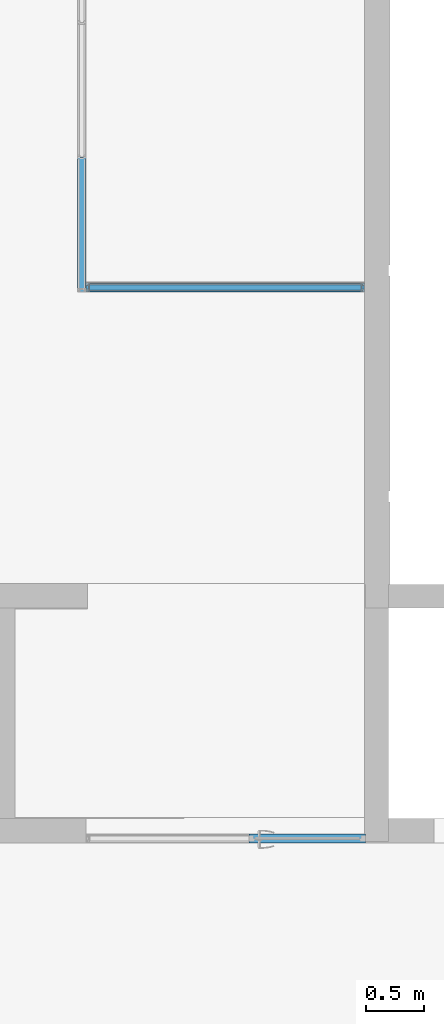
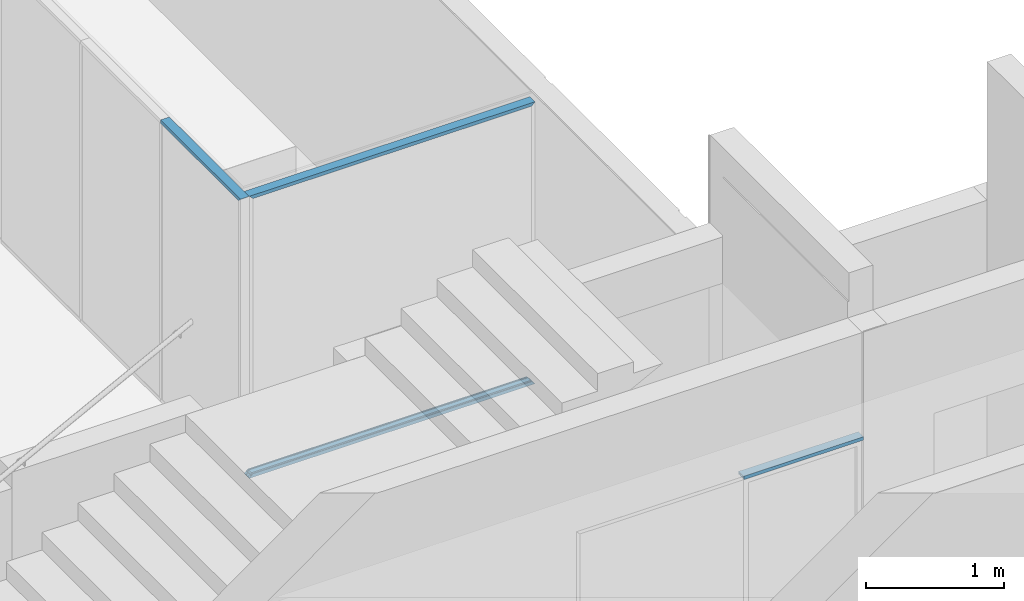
# One storey, part 23 of 79: 4 members, 3 elements without a shape of their own.
"""IFC2X3 building model written with IfcOpenShell, lengths in millimetres."""

from ifc_helpers import new_model, entity, si_unit, converted_unit, derived_unit, money_unit, direction, frame, origin_with_axes, place, context, subcontext, project, spatial, faceted_brep, material, material_list, type_object, element, aggregate, save


model = new_model("IFC2X3")

# Units and contexts
model_context = context("Model", 3, precision=0.01, world=origin_with_axes(), true_north=direction((0.0, 1.0)))
body_context = subcontext(model_context, "Body", "Model", "MODEL_VIEW")
ifc_project = project(units=[si_unit("LENGTHUNIT", "METRE", prefix="MILLI"), si_unit("AREAUNIT", "SQUARE_METRE"), si_unit("VOLUMEUNIT", "CUBIC_METRE"), converted_unit("PLANEANGLEUNIT", "DEGREE", entity("IfcPlaneAngleMeasure", 0.0174532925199), si_unit("PLANEANGLEUNIT", "RADIAN"), dimensions=[0, 0, 0, 0, 0, 0, 0]), si_unit("SOLIDANGLEUNIT", "STERADIAN"), money_unit("EUR"), converted_unit("TIMEUNIT", "Year", entity("IfcTimeMeasure", 31556926.0), si_unit("TIMEUNIT", "SECOND"), dimensions=[0, 0, 1, 0, 0, 0, 0]), si_unit("MASSUNIT", "GRAM", prefix="KILO"), si_unit("THERMODYNAMICTEMPERATUREUNIT", "DEGREE_CELSIUS"), si_unit("LUMINOUSINTENSITYUNIT", "LUMEN"), si_unit("ENERGYUNIT", "JOULE", prefix="MEGA"), derived_unit("THERMALCONDUCTANCEUNIT", [(si_unit("POWERUNIT", "WATT"), 1), (si_unit("LENGTHUNIT", "METRE"), -1), (si_unit("THERMODYNAMICTEMPERATUREUNIT", "KELVIN"), -1)]), derived_unit("SPECIFICHEATCAPACITYUNIT", [(si_unit("ENERGYUNIT", "JOULE"), 1), (si_unit("MASSUNIT", "GRAM", prefix="KILO"), -1), (si_unit("THERMODYNAMICTEMPERATUREUNIT", "KELVIN"), -1)]), derived_unit("MASSDENSITYUNIT", [(si_unit("MASSUNIT", "GRAM", prefix="KILO"), 1), (si_unit("VOLUMEUNIT", "CUBIC_METRE"), -1)])], contexts=[model_context])

# Site, building, storey
site_placement = place(None, origin_with_axes())
site = spatial("IfcSite", under=ifc_project, at=site_placement, Name="L.Koidula tn 11b", CompositionType="ELEMENT")
building_placement = place(site_placement, origin_with_axes())
building = spatial("IfcBuilding", under=site, at=building_placement, Name="Rakvere Riigigümnaasium", CompositionType="ELEMENT")
storey_placement = place(building_placement, frame((0.0, 0.0, 3720.0), z_axis=(0.0, 0.0, 1.0), x_axis=(1.0, 0.0, 0.0)))
storey = spatial("IfcBuildingStorey", under=building, at=storey_placement, Name="2.korrus +3,72", CompositionType="ELEMENT", Elevation=3720.0)

# Curtain wall, members
curtain_wall_type = type_object("IfcCurtainWallType", Name="Curtain Wall Type", PredefinedType="NOTDEFINED")
curtain_wall_1_placement = place(storey_placement, frame((45794.9999935, 19868.2190306, 0.0), z_axis=(0.0, 0.0, 1.0), x_axis=(1.0, 0.0, 0.0)))
curtain_wall_1 = element("IfcCurtainWall", 1, at=curtain_wall_1_placement, inside=storey, type_object=curtain_wall_type, Name="SKLF-18")
ifc_material_1 = material(Name="Klaasvill")
ifc_material_2 = material(Name="Teras RAL7012")
ifc_material_list = material_list([ifc_material_1, ifc_material_2])
member_type = type_object("IfcMemberType", Name="Boundary Frame 30 x 42", PredefinedType="MULLION")
member_1_placement = place(curtain_wall_1_placement, frame((1195.0, 0.0, 0.0), z_axis=(-1.0, 0.0, 0.0), x_axis=(0.0, 0.0, 1.0)))
member_1 = element("IfcMember", 2, at=member_1_placement, type_object=member_type, material=ifc_material_list, Name="SKLF-18-raam", ObjectType="MULLION", context=body_context, shape_type="Brep", body=[
    faceted_brep([(13.8499999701, 15.000000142, 13.8499999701), (13.8499999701, 15.000000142, 2376.15000003), (7.49999990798, 15.000000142, 2382.50000009), (7.49999990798, 15.000000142, 7.49999990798), (13.8499999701, 29.0161444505, 13.8499999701), (13.8499999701, 29.0161444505, 2376.15000003), (7.49999990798, 29.0161444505, 2382.50000009), (7.49999990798, 29.0161444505, 7.49999990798)], [[[0, 1, 2, 3]], [[4, 5, 1, 0]], [[2, 1, 5, 6]], [[3, 2, 6, 7]], [[3, 7, 4, 0]], [[7, 6, 5, 4]]]),
    faceted_brep([(25.004489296, 27.0307503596, 25.004489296), (25.004489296, 27.0307503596, 2364.9955107), (24.987414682, 29.0161444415, 2365.01258532), (24.987414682, 29.0161444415, 24.987414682), (25.742237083, 26.2930025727, 25.742237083), (25.742237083, 26.2930025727, 2364.25776292), (26.7500193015, 26.0229681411, 2363.2499807), (27.75780152, 26.2930025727, 2362.24219848), (28.4955493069, 27.0307503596, 2361.50445069), (28.7655837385, 28.0385325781, 2361.23441626), (28.5126239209, 29.0161444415, 2361.48737608), (28.5126239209, 29.0161444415, 28.5126239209), (28.7655837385, 28.0385325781, 28.7655837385), (28.4955493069, 27.0307503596, 28.4955493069), (27.75780152, 26.2930025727, 27.75780152), (26.7500193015, 26.0229681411, 26.7500193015)], [[[0, 1, 2, 3]], [[4, 5, 1, 0]], [[2, 1, 5, 6, 7, 8, 9, 10]], [[3, 2, 10, 11]], [[3, 11, 12, 13, 14, 15, 4, 0]], [[15, 6, 5, 4]], [[14, 7, 6, 15]], [[13, 8, 7, 14]], [[12, 9, 8, 13]], [[11, 10, 9, 12]]]),
    faceted_brep([(7.49999990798, -39.0161445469, 7.49999990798), (7.49999990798, -39.0161445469, 2382.50000009), (7.49999990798, -24.9999997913, 2382.50000009), (7.49999990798, -24.9999997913, 7.49999990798), (13.8499999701, -39.0161445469, 13.8499999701), (13.8499999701, -39.0161445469, 2376.15000003), (13.8499999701, -24.9999997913, 2376.15000003), (13.8499999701, -24.9999997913, 13.8499999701)], [[[0, 1, 2, 3]], [[4, 5, 1, 0]], [[2, 1, 5, 6]], [[3, 2, 6, 7]], [[3, 7, 4, 0]], [[7, 6, 5, 4]]]),
    faceted_brep([(24.987414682, -39.0161444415, 24.987414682), (24.987414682, -39.0161444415, 2365.01258532), (25.004489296, -37.0307503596, 2364.9955107), (25.004489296, -37.0307503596, 25.004489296), (28.5126239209, -39.0161444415, 28.5126239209), (28.5126239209, -39.0161444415, 2361.48737608), (28.7655837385, -38.0385325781, 2361.23441626), (28.4955493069, -37.0307503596, 2361.50445069), (27.75780152, -36.2930025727, 2362.24219848), (26.7500193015, -36.0229681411, 2363.2499807), (25.742237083, -36.2930025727, 2364.25776292), (25.742237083, -36.2930025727, 25.742237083), (26.7500193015, -36.0229681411, 26.7500193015), (27.75780152, -36.2930025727, 27.75780152), (28.4955493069, -37.0307503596, 28.4955493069), (28.7655837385, -38.0385325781, 28.7655837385)], [[[0, 1, 2, 3]], [[4, 5, 1, 0]], [[2, 1, 5, 6, 7, 8, 9, 10]], [[3, 2, 10, 11]], [[3, 11, 12, 13, 14, 15, 4, 0]], [[15, 6, 5, 4]], [[14, 7, 6, 15]], [[13, 8, 7, 14]], [[12, 9, 8, 13]], [[11, 10, 9, 12]]]),
    faceted_brep([(29.5999996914, -22.0000000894, 29.5999996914), (29.5999996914, -22.0000000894, 2360.40000031), (0.0, -22.0000000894, 2390.0), (0.0, -22.0000000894, 0.0), (29.5999996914, 12.0000000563, 29.5999996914), (29.5999996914, 12.0000000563, 2360.40000031), (0.0, 12.0000000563, 2390.0), (1.9999999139, 10.0000001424, 2388.00000009), (18.7999996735, 10.0000001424, 2371.20000033), (18.7999996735, -20.0000001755, 2371.20000033), (1.9999999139, -20.0000001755, 2388.00000009), (0.0, 12.0000000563, 0.0), (1.9999999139, 10.0000001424, 1.9999999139), (1.9999999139, -20.0000001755, 1.9999999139), (18.7999996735, -20.0000001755, 18.7999996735), (18.7999996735, 10.0000001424, 18.7999996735)], [[[0, 1, 2, 3]], [[4, 5, 1, 0]], [[2, 1, 5, 6], [7, 8, 9, 10]], [[3, 2, 6, 11]], [[3, 11, 4, 0], [12, 13, 14, 15]], [[11, 6, 5, 4]], [[15, 8, 7, 12]], [[14, 9, 8, 15]], [[13, 10, 9, 14]], [[12, 7, 10, 13]]]),
    faceted_brep([(29.5999996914, 12.0000000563, 29.5999996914), (29.5999996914, 12.0000000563, 2360.40000031), (0.0, 12.0, 2390.0), (0.0, 12.0, 0.0), (30.0000193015, 12.0, 30.0000193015), (30.0000193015, 12.0, 2359.9999807), (30.0000193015, 15.0, 2359.9999807), (13.8499999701, 15.000000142, 2376.15000003), (7.49999999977, 15.0, 2382.5), (7.49999999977, 29.0161444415, 2382.5), (13.8499999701, 29.0161444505, 2376.15000003), (24.987414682, 29.0161444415, 2365.01258532), (28.5126239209, 29.0161444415, 2361.48737608), (30.0000193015, 29.0161444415, 2359.9999807), (30.0000193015, 32.0, 2359.9999807), (0.0, 32.0, 2390.0), (0.0, 32.0, 0.0), (30.0000193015, 32.0, 30.0000193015), (30.0000193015, 29.0161444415, 30.0000193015), (28.5126239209, 29.0161444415, 28.5126239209), (24.987414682, 29.0161444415, 24.987414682), (13.8499999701, 29.0161444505, 13.8499999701), (7.49999999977, 29.0161444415, 7.49999999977), (7.49999999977, 15.0, 7.49999999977), (13.8499999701, 15.000000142, 13.8499999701), (30.0000193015, 15.0, 30.0000193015)], [[[0, 1, 2, 3]], [[4, 5, 1, 0]], [[2, 1, 5, 6, 7, 8, 9, 10, 11, 12, 13, 14, 15]], [[3, 2, 15, 16]], [[3, 16, 17, 18, 19, 20, 21, 22, 23, 24, 25, 4, 0]], [[25, 6, 5, 4]], [[24, 7, 6, 25]], [[23, 8, 7, 24]], [[22, 9, 8, 23]], [[21, 10, 9, 22]], [[20, 11, 10, 21]], [[19, 12, 11, 20]], [[18, 13, 12, 19]], [[17, 14, 13, 18]], [[16, 15, 14, 17]]]),
    faceted_brep([(0.0, -42.0, 0.0), (0.0, -42.0, 2390.0), (0.0, -22.0, 2390.0), (0.0, -22.0, 0.0), (30.0000193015, -42.0, 30.0000193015), (30.0000193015, -42.0, 2359.9999807), (30.0000193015, -39.0161444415, 2359.9999807), (28.5126239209, -39.0161444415, 2361.48737608), (24.987414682, -39.0161444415, 2365.01258532), (13.8499999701, -39.0161445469, 2376.15000003), (7.49999999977, -39.0161444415, 2382.5), (7.49999999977, -25.0, 2382.5), (13.8499999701, -24.9999997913, 2376.15000003), (30.0000193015, -25.0, 2359.9999807), (30.0000193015, -22.0, 2359.9999807), (29.5999996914, -22.0000000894, 2360.40000031), (29.5999996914, -22.0000000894, 29.5999996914), (30.0000193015, -22.0, 30.0000193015), (30.0000193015, -25.0, 30.0000193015), (13.8499999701, -24.9999997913, 13.8499999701), (7.49999999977, -25.0, 7.49999999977), (7.49999999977, -39.0161444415, 7.49999999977), (13.8499999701, -39.0161445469, 13.8499999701), (24.987414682, -39.0161444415, 24.987414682), (28.5126239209, -39.0161444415, 28.5126239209), (30.0000193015, -39.0161444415, 30.0000193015)], [[[0, 1, 2, 3]], [[4, 5, 1, 0]], [[2, 1, 5, 6, 7, 8, 9, 10, 11, 12, 13, 14, 15]], [[3, 2, 15, 16]], [[3, 16, 17, 18, 19, 20, 21, 22, 23, 24, 25, 4, 0]], [[25, 6, 5, 4]], [[24, 7, 6, 25]], [[23, 8, 7, 24]], [[22, 9, 8, 23]], [[21, 10, 9, 22]], [[20, 11, 10, 21]], [[19, 12, 11, 20]], [[18, 13, 12, 19]], [[17, 14, 13, 18]], [[16, 15, 14, 17]]]),
])
member_2_placement = place(curtain_wall_1_placement, frame((1195.0, 0.0, 2493.00002265), z_axis=(-1.0, 0.0, 0.0), x_axis=(0.0, 0.0, 1.0)))
member_2 = element("IfcMember", 3, at=member_2_placement, type_object=member_type, material=ifc_material_list, Name="SKLF-18-raam", ObjectType="MULLION", context=body_context, shape_type="Brep", body=[
    faceted_brep([(-13.8499999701, 15.000000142, 13.8499999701), (-7.49999990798, 15.000000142, 7.49999990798), (-7.49999990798, 15.000000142, 2382.50000009), (-13.8499999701, 15.000000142, 2376.15000003), (-13.8499999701, 29.0161444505, 13.8499999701), (-7.49999990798, 29.0161444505, 7.49999990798), (-7.49999990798, 29.0161444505, 2382.50000009), (-13.8499999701, 29.0161444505, 2376.15000003)], [[[0, 1, 2, 3]], [[1, 0, 4, 5]], [[1, 5, 6, 2]], [[2, 6, 7, 3]], [[4, 0, 3, 7]], [[5, 4, 7, 6]]]),
    faceted_brep([(-25.004489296, 27.0307503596, 25.004489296), (-24.987414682, 29.0161444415, 24.987414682), (-24.987414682, 29.0161444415, 2365.01258532), (-25.004489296, 27.0307503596, 2364.9955107), (-25.742237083, 26.2930025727, 25.742237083), (-26.7500193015, 26.0229681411, 26.7500193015), (-27.75780152, 26.2930025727, 27.75780152), (-28.4955493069, 27.0307503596, 28.4955493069), (-28.7655837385, 28.0385325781, 28.7655837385), (-28.5126239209, 29.0161444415, 28.5126239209), (-28.5126239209, 29.0161444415, 2361.48737608), (-28.7655837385, 28.0385325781, 2361.23441626), (-28.4955493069, 27.0307503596, 2361.50445069), (-27.75780152, 26.2930025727, 2362.24219848), (-26.7500193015, 26.0229681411, 2363.2499807), (-25.742237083, 26.2930025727, 2364.25776292)], [[[0, 1, 2, 3]], [[1, 0, 4, 5, 6, 7, 8, 9]], [[1, 9, 10, 2]], [[2, 10, 11, 12, 13, 14, 15, 3]], [[4, 0, 3, 15]], [[5, 4, 15, 14]], [[6, 5, 14, 13]], [[7, 6, 13, 12]], [[8, 7, 12, 11]], [[9, 8, 11, 10]]]),
    faceted_brep([(-7.49999990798, -39.0161445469, 7.49999990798), (-7.49999990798, -24.9999997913, 7.49999990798), (-7.49999990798, -24.9999997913, 2382.50000009), (-7.49999990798, -39.0161445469, 2382.50000009), (-13.8499999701, -39.0161445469, 13.8499999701), (-13.8499999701, -24.9999997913, 13.8499999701), (-13.8499999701, -24.9999997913, 2376.15000003), (-13.8499999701, -39.0161445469, 2376.15000003)], [[[0, 1, 2, 3]], [[1, 0, 4, 5]], [[1, 5, 6, 2]], [[2, 6, 7, 3]], [[4, 0, 3, 7]], [[5, 4, 7, 6]]]),
    faceted_brep([(-24.987414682, -39.0161444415, 24.987414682), (-25.004489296, -37.0307503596, 25.004489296), (-25.004489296, -37.0307503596, 2364.9955107), (-24.987414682, -39.0161444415, 2365.01258532), (-28.5126239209, -39.0161444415, 28.5126239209), (-28.7655837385, -38.0385325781, 28.7655837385), (-28.4955493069, -37.0307503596, 28.4955493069), (-27.75780152, -36.2930025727, 27.75780152), (-26.7500193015, -36.0229681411, 26.7500193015), (-25.742237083, -36.2930025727, 25.742237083), (-25.742237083, -36.2930025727, 2364.25776292), (-26.7500193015, -36.0229681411, 2363.2499807), (-27.75780152, -36.2930025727, 2362.24219848), (-28.4955493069, -37.0307503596, 2361.50445069), (-28.7655837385, -38.0385325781, 2361.23441626), (-28.5126239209, -39.0161444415, 2361.48737608)], [[[0, 1, 2, 3]], [[1, 0, 4, 5, 6, 7, 8, 9]], [[1, 9, 10, 2]], [[2, 10, 11, 12, 13, 14, 15, 3]], [[4, 0, 3, 15]], [[5, 4, 15, 14]], [[6, 5, 14, 13]], [[7, 6, 13, 12]], [[8, 7, 12, 11]], [[9, 8, 11, 10]]]),
    faceted_brep([(-29.5999996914, -22.0000000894, 29.5999996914), (0.0, -22.0000000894, 0.0), (0.0, -22.0000000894, 2390.0), (-29.5999996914, -22.0000000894, 2360.40000031), (-29.5999996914, 12.0000000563, 29.5999996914), (0.0, 12.0000000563, 0.0), (-1.9999999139, 10.0000001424, 1.9999999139), (-18.7999996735, 10.0000001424, 18.7999996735), (-18.7999996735, -20.0000001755, 18.7999996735), (-1.9999999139, -20.0000001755, 1.9999999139), (0.0, 12.0000000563, 2390.0), (-29.5999996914, 12.0000000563, 2360.40000031), (-1.9999999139, 10.0000001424, 2388.00000009), (-1.9999999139, -20.0000001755, 2388.00000009), (-18.7999996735, -20.0000001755, 2371.20000033), (-18.7999996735, 10.0000001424, 2371.20000033)], [[[0, 1, 2, 3]], [[1, 0, 4, 5], [6, 7, 8, 9]], [[1, 5, 10, 2]], [[2, 10, 11, 3], [12, 13, 14, 15]], [[4, 0, 3, 11]], [[5, 4, 11, 10]], [[7, 6, 12, 15]], [[8, 7, 15, 14]], [[9, 8, 14, 13]], [[6, 9, 13, 12]]]),
    faceted_brep([(-29.5999996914, 12.0000000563, 29.5999996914), (0.0, 12.0, 0.0), (0.0, 12.0, 2390.0), (-29.5999996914, 12.0000000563, 2360.40000031), (-30.0000193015, 12.0, 30.0000193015), (-30.0000193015, 15.0, 30.0000193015), (-13.8499999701, 15.000000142, 13.8499999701), (-7.49999999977, 15.0, 7.49999999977), (-7.49999999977, 29.0161444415, 7.49999999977), (-13.8499999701, 29.0161444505, 13.8499999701), (-24.987414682, 29.0161444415, 24.987414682), (-28.5126239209, 29.0161444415, 28.5126239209), (-30.0000193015, 29.0161444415, 30.0000193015), (-30.0000193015, 32.0, 30.0000193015), (0.0, 32.0, 0.0), (0.0, 32.0, 2390.0), (-30.0000193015, 32.0, 2359.9999807), (-30.0000193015, 29.0161444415, 2359.9999807), (-28.5126239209, 29.0161444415, 2361.48737608), (-24.987414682, 29.0161444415, 2365.01258532), (-13.8499999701, 29.0161444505, 2376.15000003), (-7.49999999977, 29.0161444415, 2382.5), (-7.49999999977, 15.0, 2382.5), (-13.8499999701, 15.000000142, 2376.15000003), (-30.0000193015, 15.0, 2359.9999807), (-30.0000193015, 12.0, 2359.9999807)], [[[0, 1, 2, 3]], [[1, 0, 4, 5, 6, 7, 8, 9, 10, 11, 12, 13, 14]], [[1, 14, 15, 2]], [[2, 15, 16, 17, 18, 19, 20, 21, 22, 23, 24, 25, 3]], [[4, 0, 3, 25]], [[5, 4, 25, 24]], [[6, 5, 24, 23]], [[7, 6, 23, 22]], [[8, 7, 22, 21]], [[9, 8, 21, 20]], [[10, 9, 20, 19]], [[11, 10, 19, 18]], [[12, 11, 18, 17]], [[13, 12, 17, 16]], [[14, 13, 16, 15]]]),
    faceted_brep([(0.0, -42.0, 0.0), (0.0, -22.0, 0.0), (0.0, -22.0, 2390.0), (0.0, -42.0, 2390.0), (-30.0000193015, -42.0, 30.0000193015), (-30.0000193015, -39.0161444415, 30.0000193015), (-28.5126239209, -39.0161444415, 28.5126239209), (-24.987414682, -39.0161444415, 24.987414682), (-13.8499999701, -39.0161445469, 13.8499999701), (-7.49999999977, -39.0161444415, 7.49999999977), (-7.49999999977, -25.0, 7.49999999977), (-13.8499999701, -24.9999997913, 13.8499999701), (-30.0000193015, -25.0, 30.0000193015), (-30.0000193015, -22.0, 30.0000193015), (-29.5999996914, -22.0000000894, 29.5999996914), (-29.5999996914, -22.0000000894, 2360.40000031), (-30.0000193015, -22.0, 2359.9999807), (-30.0000193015, -25.0, 2359.9999807), (-13.8499999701, -24.9999997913, 2376.15000003), (-7.49999999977, -25.0, 2382.5), (-7.49999999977, -39.0161444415, 2382.5), (-13.8499999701, -39.0161445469, 2376.15000003), (-24.987414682, -39.0161444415, 2365.01258532), (-28.5126239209, -39.0161444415, 2361.48737608), (-30.0000193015, -39.0161444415, 2359.9999807), (-30.0000193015, -42.0, 2359.9999807)], [[[0, 1, 2, 3]], [[1, 0, 4, 5, 6, 7, 8, 9, 10, 11, 12, 13, 14]], [[1, 14, 15, 2]], [[2, 15, 16, 17, 18, 19, 20, 21, 22, 23, 24, 25, 3]], [[4, 0, 3, 25]], [[5, 4, 25, 24]], [[6, 5, 24, 23]], [[7, 6, 23, 22]], [[8, 7, 22, 21]], [[9, 8, 21, 20]], [[10, 9, 20, 19]], [[11, 10, 19, 18]], [[12, 11, 18, 17]], [[13, 12, 17, 16]], [[14, 13, 16, 15]]]),
])
aggregate(curtain_wall_1, [member_1, member_2])

# Curtain wall, member
curtain_wall_2_placement = place(storey_placement, frame((44568.0000786, 20404.7190306, -3.55964617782e-05), z_axis=(0.0, 0.0, 1.0), x_axis=(1.0, 0.0, 0.0)))
curtain_wall_2 = element("IfcCurtainWall", 4, at=curtain_wall_2_placement, inside=storey, type_object=curtain_wall_type, Name="SKLF-17")
member_3_placement = place(curtain_wall_2_placement, frame((0.0, -578.5, 2493.0000356), z_axis=(0.0, 1.0, 0.0), x_axis=(0.0, 0.0, 1.0)))
member_3 = element("IfcMember", 5, at=member_3_placement, type_object=member_type, material=ifc_material_list, Name="SKLF-81-raam", ObjectType="MULLION", context=body_context, shape_type="Brep", body=[
    faceted_brep([(-13.8499999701, 15.000000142, 13.8499999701), (-7.49999990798, 15.000000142, 7.49999990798), (-7.49999990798, 15.000000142, 1157.0), (-13.8499999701, 15.000000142, 1157.0), (-13.8499999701, 29.0161444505, 13.8499999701), (-7.49999990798, 29.0161444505, 7.49999990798), (-7.49999990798, 29.0161444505, 1157.0), (-13.8499999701, 29.0161444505, 1157.0)], [[[0, 1, 2, 3]], [[1, 0, 4, 5]], [[1, 5, 6, 2]], [[2, 6, 7, 3]], [[4, 0, 3, 7]], [[5, 4, 7, 6]]]),
    faceted_brep([(-25.004489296, 27.0307503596, 25.004489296), (-24.987414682, 29.0161444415, 24.987414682), (-24.987414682, 29.0161444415, 1157.0), (-25.004489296, 27.0307503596, 1157.0), (-25.742237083, 26.2930025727, 25.742237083), (-26.7500193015, 26.0229681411, 26.7500193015), (-27.75780152, 26.2930025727, 27.75780152), (-28.4955493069, 27.0307503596, 28.4955493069), (-28.7655837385, 28.0385325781, 28.7655837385), (-28.5126239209, 29.0161444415, 28.5126239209), (-28.5126239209, 29.0161444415, 1157.0), (-28.7655837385, 28.0385325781, 1157.0), (-28.4955493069, 27.0307503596, 1157.0), (-27.75780152, 26.2930025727, 1157.0), (-26.7500193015, 26.0229681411, 1157.0), (-25.742237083, 26.2930025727, 1157.0)], [[[0, 1, 2, 3]], [[1, 0, 4, 5, 6, 7, 8, 9]], [[1, 9, 10, 2]], [[2, 10, 11, 12, 13, 14, 15, 3]], [[4, 0, 3, 15]], [[5, 4, 15, 14]], [[6, 5, 14, 13]], [[7, 6, 13, 12]], [[8, 7, 12, 11]], [[9, 8, 11, 10]]]),
    faceted_brep([(-7.49999990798, -39.0161445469, 7.49999990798), (-7.49999990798, -24.9999997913, 7.49999990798), (-7.49999990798, -24.9999997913, 1157.0), (-7.49999990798, -39.0161445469, 1157.0), (-13.8499999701, -39.0161445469, 13.8499999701), (-13.8499999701, -24.9999997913, 13.8499999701), (-13.8499999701, -24.9999997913, 1157.0), (-13.8499999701, -39.0161445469, 1157.0)], [[[0, 1, 2, 3]], [[1, 0, 4, 5]], [[1, 5, 6, 2]], [[2, 6, 7, 3]], [[4, 0, 3, 7]], [[5, 4, 7, 6]]]),
    faceted_brep([(-24.987414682, -39.0161444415, 24.987414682), (-25.004489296, -37.0307503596, 25.004489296), (-25.004489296, -37.0307503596, 1157.0), (-24.987414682, -39.0161444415, 1157.0), (-28.5126239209, -39.0161444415, 28.5126239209), (-28.7655837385, -38.0385325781, 28.7655837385), (-28.4955493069, -37.0307503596, 28.4955493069), (-27.75780152, -36.2930025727, 27.75780152), (-26.7500193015, -36.0229681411, 26.7500193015), (-25.742237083, -36.2930025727, 25.742237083), (-25.742237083, -36.2930025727, 1157.0), (-26.7500193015, -36.0229681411, 1157.0), (-27.75780152, -36.2930025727, 1157.0), (-28.4955493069, -37.0307503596, 1157.0), (-28.7655837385, -38.0385325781, 1157.0), (-28.5126239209, -39.0161444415, 1157.0)], [[[0, 1, 2, 3]], [[1, 0, 4, 5, 6, 7, 8, 9]], [[1, 9, 10, 2]], [[2, 10, 11, 12, 13, 14, 15, 3]], [[4, 0, 3, 15]], [[5, 4, 15, 14]], [[6, 5, 14, 13]], [[7, 6, 13, 12]], [[8, 7, 12, 11]], [[9, 8, 11, 10]]]),
    faceted_brep([(-29.5999996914, -22.0000000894, 29.5999996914), (0.0, -22.0000000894, 0.0), (0.0, -22.0000000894, 1157.0), (-29.5999996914, -22.0000000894, 1157.0), (-29.5999996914, 12.0000000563, 29.5999996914), (0.0, 12.0000000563, 0.0), (-1.9999999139, 10.0000001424, 1.9999999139), (-18.7999996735, 10.0000001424, 18.7999996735), (-18.7999996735, -20.0000001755, 18.7999996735), (-1.9999999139, -20.0000001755, 1.9999999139), (0.0, 12.0000000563, 1157.0), (-29.5999996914, 12.0000000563, 1157.0), (-1.9999999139, 10.0000001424, 1157.0), (-1.9999999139, -20.0000001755, 1157.0), (-18.7999996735, -20.0000001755, 1157.0), (-18.7999996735, 10.0000001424, 1157.0)], [[[0, 1, 2, 3]], [[1, 0, 4, 5], [6, 7, 8, 9]], [[1, 5, 10, 2]], [[2, 10, 11, 3], [12, 13, 14, 15]], [[4, 0, 3, 11]], [[5, 4, 11, 10]], [[7, 6, 12, 15]], [[8, 7, 15, 14]], [[9, 8, 14, 13]], [[6, 9, 13, 12]]]),
    faceted_brep([(-29.5999996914, 12.0000000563, 29.5999996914), (0.0, 12.0, 0.0), (0.0, 12.0, 1157.0), (-29.5999996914, 12.0000000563, 1157.0), (-30.0000193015, 12.0, 30.0000193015), (-30.0000193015, 15.0, 30.0000193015), (-13.8499999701, 15.000000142, 13.8499999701), (-7.49999999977, 15.0, 7.49999999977), (-7.49999999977, 29.0161444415, 7.49999999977), (-13.8499999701, 29.0161444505, 13.8499999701), (-24.987414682, 29.0161444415, 24.987414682), (-28.5126239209, 29.0161444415, 28.5126239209), (-30.0000193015, 29.0161444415, 30.0000193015), (-30.0000193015, 32.0, 30.0000193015), (0.0, 32.0, 0.0), (0.0, 32.0, 1157.0), (-30.0000193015, 32.0, 1157.0), (-30.0000193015, 29.0161444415, 1157.0), (-28.5126239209, 29.0161444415, 1157.0), (-24.987414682, 29.0161444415, 1157.0), (-13.8499999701, 29.0161444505, 1157.0), (-7.49999999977, 29.0161444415, 1157.0), (-7.49999999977, 15.0, 1157.0), (-13.8499999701, 15.000000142, 1157.0), (-30.0000193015, 15.0, 1157.0), (-30.0000193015, 12.0, 1157.0)], [[[0, 1, 2, 3]], [[1, 0, 4, 5, 6, 7, 8, 9, 10, 11, 12, 13, 14]], [[1, 14, 15, 2]], [[2, 15, 16, 17, 18, 19, 20, 21, 22, 23, 24, 25, 3]], [[4, 0, 3, 25]], [[5, 4, 25, 24]], [[6, 5, 24, 23]], [[7, 6, 23, 22]], [[8, 7, 22, 21]], [[9, 8, 21, 20]], [[10, 9, 20, 19]], [[11, 10, 19, 18]], [[12, 11, 18, 17]], [[13, 12, 17, 16]], [[14, 13, 16, 15]]]),
    faceted_brep([(0.0, -42.0, 0.0), (0.0, -22.0, 0.0), (0.0, -22.0, 1157.0), (0.0, -42.0, 1157.0), (-30.0000193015, -42.0, 30.0000193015), (-30.0000193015, -39.0161444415, 30.0000193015), (-28.5126239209, -39.0161444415, 28.5126239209), (-24.987414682, -39.0161444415, 24.987414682), (-13.8499999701, -39.0161445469, 13.8499999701), (-7.49999999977, -39.0161444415, 7.49999999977), (-7.49999999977, -25.0, 7.49999999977), (-13.8499999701, -24.9999997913, 13.8499999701), (-30.0000193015, -25.0, 30.0000193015), (-30.0000193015, -22.0, 30.0000193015), (-29.5999996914, -22.0000000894, 29.5999996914), (-29.5999996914, -22.0000000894, 1157.0), (-30.0000193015, -22.0, 1157.0), (-30.0000193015, -25.0, 1157.0), (-13.8499999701, -24.9999997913, 1157.0), (-7.49999999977, -25.0, 1157.0), (-7.49999999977, -39.0161444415, 1157.0), (-13.8499999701, -39.0161445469, 1157.0), (-24.987414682, -39.0161444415, 1157.0), (-28.5126239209, -39.0161444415, 1157.0), (-30.0000193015, -39.0161444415, 1157.0), (-30.0000193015, -42.0, 1157.0)], [[[0, 1, 2, 3]], [[1, 0, 4, 5, 6, 7, 8, 9, 10, 11, 12, 13, 14]], [[1, 14, 15, 2]], [[2, 15, 16, 17, 18, 19, 20, 21, 22, 23, 24, 25, 3]], [[4, 0, 3, 25]], [[5, 4, 25, 24]], [[6, 5, 24, 23]], [[7, 6, 23, 22]], [[8, 7, 22, 21]], [[9, 8, 21, 20]], [[10, 9, 20, 19]], [[11, 10, 19, 18]], [[12, 11, 18, 17]], [[13, 12, 17, 16]], [[14, 13, 16, 15]]]),
])
aggregate(curtain_wall_2, [member_3])

curtain_wall_3_placement = place(storey_placement, frame((45299.9999374, 15122.4785302, 0.0), z_axis=(0.0, 0.0, 1.0), x_axis=(1.0, 0.0, 0.0)))
curtain_wall_3 = element("IfcCurtainWall", 6, at=curtain_wall_3_placement, inside=storey, type_object=curtain_wall_type, Name="SKLF-11")
member_4_placement = place(curtain_wall_3_placement, frame((700.0, 0.0, 2400.00001162), z_axis=(1.0, 0.0, 0.0), x_axis=(0.0, 0.0, 1.0)))
member_4 = element("IfcMember", 7, at=member_4_placement, type_object=member_type, material=ifc_material_list, Name="SKLF-10-raam", ObjectType="MULLION", context=body_context, shape_type="Brep", body=[
    faceted_brep([(-7.49999990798, 15.000000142, 0.0), (-7.49999990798, 15.000000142, 1000.00005641), (-13.8499999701, 15.000000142, 1000.00005641), (-13.8499999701, 15.000000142, 0.0), (-7.49999990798, 29.0161444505, 0.0), (-7.49999990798, 29.0161444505, 1000.00005641), (-13.8499999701, 29.0161444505, 1000.00005641), (-13.8499999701, 29.0161444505, 0.0)], [[[0, 1, 2, 3]], [[4, 5, 1, 0]], [[1, 5, 6, 2]], [[3, 2, 6, 7]], [[0, 3, 7, 4]], [[7, 6, 5, 4]]]),
    faceted_brep([(-24.987414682, 29.0161444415, 0.0), (-24.987414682, 29.0161444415, 1000.00005641), (-25.004489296, 27.0307503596, 1000.00005641), (-25.004489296, 27.0307503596, 0.0), (-28.5126239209, 29.0161444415, 0.0), (-28.5126239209, 29.0161444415, 1000.00005641), (-28.7655837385, 28.0385325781, 1000.00005641), (-28.4955493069, 27.0307503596, 1000.00005641), (-27.75780152, 26.2930025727, 1000.00005641), (-26.7500193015, 26.0229681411, 1000.00005641), (-25.742237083, 26.2930025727, 1000.00005641), (-25.742237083, 26.2930025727, 0.0), (-26.7500193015, 26.0229681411, 0.0), (-27.75780152, 26.2930025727, 0.0), (-28.4955493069, 27.0307503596, 0.0), (-28.7655837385, 28.0385325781, 0.0)], [[[0, 1, 2, 3]], [[4, 5, 1, 0]], [[1, 5, 6, 7, 8, 9, 10, 2]], [[3, 2, 10, 11]], [[0, 3, 11, 12, 13, 14, 15, 4]], [[15, 6, 5, 4]], [[14, 7, 6, 15]], [[13, 8, 7, 14]], [[12, 9, 8, 13]], [[11, 10, 9, 12]]]),
    faceted_brep([(-7.49999990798, -24.9999997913, 0.0), (-7.49999990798, -24.9999997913, 1000.00005641), (-7.49999990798, -39.0161445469, 1000.00005641), (-7.49999990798, -39.0161445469, 0.0), (-13.8499999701, -24.9999997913, 0.0), (-13.8499999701, -24.9999997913, 1000.00005641), (-13.8499999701, -39.0161445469, 1000.00005641), (-13.8499999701, -39.0161445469, 0.0)], [[[0, 1, 2, 3]], [[4, 5, 1, 0]], [[1, 5, 6, 2]], [[3, 2, 6, 7]], [[0, 3, 7, 4]], [[7, 6, 5, 4]]]),
    faceted_brep([(-25.004489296, -37.0307503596, 0.0), (-25.004489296, -37.0307503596, 1000.00005641), (-24.987414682, -39.0161444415, 1000.00005641), (-24.987414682, -39.0161444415, 0.0), (-25.742237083, -36.2930025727, 0.0), (-25.742237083, -36.2930025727, 1000.00005641), (-26.7500193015, -36.0229681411, 1000.00005641), (-27.75780152, -36.2930025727, 1000.00005641), (-28.4955493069, -37.0307503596, 1000.00005641), (-28.7655837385, -38.0385325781, 1000.00005641), (-28.5126239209, -39.0161444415, 1000.00005641), (-28.5126239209, -39.0161444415, 0.0), (-28.7655837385, -38.0385325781, 0.0), (-28.4955493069, -37.0307503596, 0.0), (-27.75780152, -36.2930025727, 0.0), (-26.7500193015, -36.0229681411, 0.0)], [[[0, 1, 2, 3]], [[4, 5, 1, 0]], [[1, 5, 6, 7, 8, 9, 10, 2]], [[3, 2, 10, 11]], [[0, 3, 11, 12, 13, 14, 15, 4]], [[15, 6, 5, 4]], [[14, 7, 6, 15]], [[13, 8, 7, 14]], [[12, 9, 8, 13]], [[11, 10, 9, 12]]]),
    faceted_brep([(0.0, -22.0000000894, 0.0), (0.0, -22.0000000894, 1000.00005641), (-29.5999996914, -22.0000000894, 1000.00005641), (-29.5999996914, -22.0000000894, 0.0), (0.0, 12.0000000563, 0.0), (0.0, 12.0000000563, 1000.00005641), (-29.5999996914, 12.0000000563, 1000.00005641), (-1.9999999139, 10.0000001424, 1000.00005641), (-1.9999999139, -20.0000001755, 1000.00005641), (-18.7999996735, -20.0000001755, 1000.00005641), (-18.7999996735, 10.0000001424, 1000.00005641), (-29.5999996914, 12.0000000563, 0.0), (-1.9999999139, 10.0000001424, 0.0), (-18.7999996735, 10.0000001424, 0.0), (-18.7999996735, -20.0000001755, 0.0), (-1.9999999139, -20.0000001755, 0.0)], [[[0, 1, 2, 3]], [[4, 5, 1, 0]], [[1, 5, 6, 2], [7, 8, 9, 10]], [[3, 2, 6, 11]], [[0, 3, 11, 4], [12, 13, 14, 15]], [[11, 6, 5, 4]], [[15, 8, 7, 12]], [[14, 9, 8, 15]], [[13, 10, 9, 14]], [[12, 7, 10, 13]]]),
    faceted_brep([(0.0, 12.0, 0.0), (0.0, 12.0, 1000.00005641), (-29.5999996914, 12.0000000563, 1000.00005641), (-29.5999996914, 12.0000000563, 0.0), (0.0, 32.0, 0.0), (0.0, 32.0, 1000.00005641), (-30.0000193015, 32.0, 1000.00005641), (-30.0000193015, 29.0161444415, 1000.00005641), (-28.5126239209, 29.0161444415, 1000.00005641), (-24.987414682, 29.0161444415, 1000.00005641), (-13.8499999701, 29.0161444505, 1000.00005641), (-7.49999999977, 29.0161444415, 1000.00005641), (-7.49999999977, 15.0, 1000.00005641), (-13.8499999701, 15.000000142, 1000.00005641), (-30.0000193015, 15.0, 1000.00005641), (-30.0000193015, 12.0, 1000.00005641), (-30.0000193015, 12.0, 0.0), (-30.0000193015, 15.0, 0.0), (-13.8499999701, 15.000000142, 0.0), (-7.49999999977, 15.0, 0.0), (-7.49999999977, 29.0161444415, 0.0), (-13.8499999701, 29.0161444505, 0.0), (-24.987414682, 29.0161444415, 0.0), (-28.5126239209, 29.0161444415, 0.0), (-30.0000193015, 29.0161444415, 0.0), (-30.0000193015, 32.0, 0.0)], [[[0, 1, 2, 3]], [[4, 5, 1, 0]], [[1, 5, 6, 7, 8, 9, 10, 11, 12, 13, 14, 15, 2]], [[3, 2, 15, 16]], [[0, 3, 16, 17, 18, 19, 20, 21, 22, 23, 24, 25, 4]], [[25, 6, 5, 4]], [[24, 7, 6, 25]], [[23, 8, 7, 24]], [[22, 9, 8, 23]], [[21, 10, 9, 22]], [[20, 11, 10, 21]], [[19, 12, 11, 20]], [[18, 13, 12, 19]], [[17, 14, 13, 18]], [[16, 15, 14, 17]]]),
    faceted_brep([(0.0, -22.0, 0.0), (0.0, -22.0, 1000.00005641), (0.0, -42.0, 1000.00005641), (0.0, -42.0, 0.0), (-29.5999996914, -22.0000000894, 0.0), (-29.5999996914, -22.0000000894, 1000.00005641), (-30.0000193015, -22.0, 1000.00005641), (-30.0000193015, -25.0, 1000.00005641), (-13.8499999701, -24.9999997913, 1000.00005641), (-7.49999999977, -25.0, 1000.00005641), (-7.49999999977, -39.0161444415, 1000.00005641), (-13.8499999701, -39.0161445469, 1000.00005641), (-24.987414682, -39.0161444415, 1000.00005641), (-28.5126239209, -39.0161444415, 1000.00005641), (-30.0000193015, -39.0161444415, 1000.00005641), (-30.0000193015, -42.0, 1000.00005641), (-30.0000193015, -42.0, 0.0), (-30.0000193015, -39.0161444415, 0.0), (-28.5126239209, -39.0161444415, 0.0), (-24.987414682, -39.0161444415, 0.0), (-13.8499999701, -39.0161445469, 0.0), (-7.49999999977, -39.0161444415, 0.0), (-7.49999999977, -25.0, 0.0), (-13.8499999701, -24.9999997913, 0.0), (-30.0000193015, -25.0, 0.0), (-30.0000193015, -22.0, 0.0)], [[[0, 1, 2, 3]], [[4, 5, 1, 0]], [[1, 5, 6, 7, 8, 9, 10, 11, 12, 13, 14, 15, 2]], [[3, 2, 15, 16]], [[0, 3, 16, 17, 18, 19, 20, 21, 22, 23, 24, 25, 4]], [[25, 6, 5, 4]], [[24, 7, 6, 25]], [[23, 8, 7, 24]], [[22, 9, 8, 23]], [[21, 10, 9, 22]], [[20, 11, 10, 21]], [[19, 12, 11, 20]], [[18, 13, 12, 19]], [[17, 14, 13, 18]], [[16, 15, 14, 17]]]),
])
aggregate(curtain_wall_3, [member_4])

save(model, "model.ifc")
